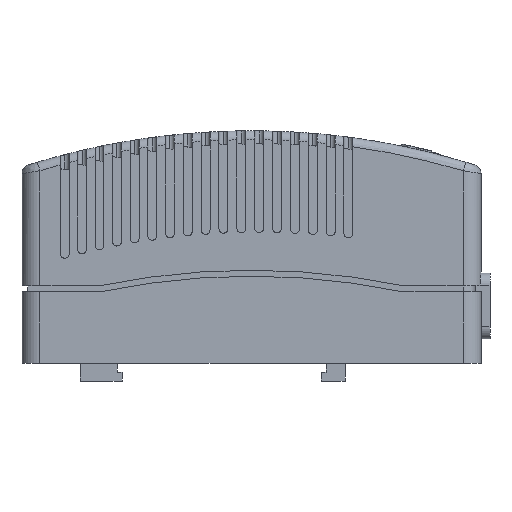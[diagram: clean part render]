
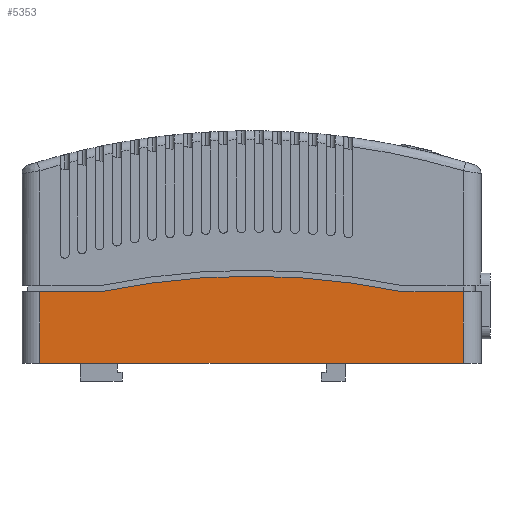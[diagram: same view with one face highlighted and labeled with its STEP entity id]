
A CAD part, left-side view. The second image highlights one B-rep face of the part: STEP entity #5353.
In plain terms, the highlighted planar face has unit normal (-1, 0, 0).
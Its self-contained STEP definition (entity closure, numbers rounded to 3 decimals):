
#246 = CARTESIAN_POINT ( 'NONE',  ( 0., -5., -110.392 ) ) ;
#247 = DIRECTION ( 'NONE',  ( 1., 0., 0. ) ) ;
#248 = DIRECTION ( 'NONE',  ( 0., 0., 1. ) ) ;
#1430 = CARTESIAN_POINT ( 'NONE',  ( 0., -30.4, 12. ) ) ;
#1454 = CARTESIAN_POINT ( 'NONE',  ( 0., -40.5, 0. ) ) ;
#1455 = CARTESIAN_POINT ( 'NONE',  ( 0., 30.5, 0. ) ) ;
#1580 = EDGE_LOOP ( 'NONE', ( #20592, #20531, #12352, #12464, #12407, #12596, #12466 ) ) ;
#1617 = VERTEX_POINT ( 'NONE', #21912 ) ;
#2074 = VERTEX_POINT ( 'NONE', #1430 ) ;
#2098 = VERTEX_POINT ( 'NONE', #1454 ) ;
#2099 = VERTEX_POINT ( 'NONE', #1455 ) ;
#2361 = VERTEX_POINT ( 'NONE', #22545 ) ;
#2465 = VERTEX_POINT ( 'NONE', #21016 ) ;
#2466 = VERTEX_POINT ( 'NONE', #21017 ) ;
#2899 = EDGE_CURVE ( 'NONE', #2099, #2098, #23634, .T. ) ;
#3154 = EDGE_CURVE ( 'NONE', #2466, #2099, #21544, .T. ) ;
#3155 = EDGE_CURVE ( 'NONE', #2361, #1617, #21371, .T. ) ;
#3156 = EDGE_CURVE ( 'NONE', #2466, #2361, #21558, .T. ) ;
#3157 = EDGE_CURVE ( 'NONE', #2074, #2465, #21822, .T. ) ;
#3159 = EDGE_CURVE ( 'NONE', #2098, #2465, #21792, .T. ) ;
#3861 = EDGE_CURVE ( 'NONE', #1617, #2074, #10626, .T. ) ;
#5353 = ADVANCED_FACE ( 'NONE', ( #11283 ), #10518, .F. ) ;
#10518 = PLANE ( 'NONE',  #13632 ) ;
#10519 = CARTESIAN_POINT ( 'NONE',  ( 0., -43.5, 39. ) ) ;
#10524 = DIRECTION ( 'NONE',  ( 1., 0., 0. ) ) ;
#10525 = DIRECTION ( 'NONE',  ( 0., 0., -1. ) ) ;
#10626 = CIRCLE ( 'NONE', #13804, 125. ) ;
#11283 = FACE_OUTER_BOUND ( 'NONE', #1580, .T. ) ;
#12352 = ORIENTED_EDGE ( 'NONE', *, *, #3157, .F. ) ;
#12407 = ORIENTED_EDGE ( 'NONE', *, *, #3155, .F. ) ;
#12464 = ORIENTED_EDGE ( 'NONE', *, *, #3861, .F. ) ;
#12466 = ORIENTED_EDGE ( 'NONE', *, *, #3154, .T. ) ;
#12596 = ORIENTED_EDGE ( 'NONE', *, *, #3156, .F. ) ;
#13632 = AXIS2_PLACEMENT_3D ( 'NONE', #10519, #10524, #10525 ) ;
#13804 = AXIS2_PLACEMENT_3D ( 'NONE', #246, #247, #248 ) ;
#13896 = AXIS2_PLACEMENT_3D ( 'NONE', #17288, #17289, #17290 ) ;
#17273 = DIRECTION ( 'NONE',  ( 0., -1., 0. ) ) ;
#17279 = CARTESIAN_POINT ( 'NONE',  ( 0., 33.5, 12. ) ) ;
#17284 = CARTESIAN_POINT ( 'NONE',  ( 0., 30.5, 39. ) ) ;
#17285 = DIRECTION ( 'NONE',  ( 0., 0., -1. ) ) ;
#17286 = CARTESIAN_POINT ( 'NONE',  ( 0., -40.5, 39. ) ) ;
#17288 = CARTESIAN_POINT ( 'NONE',  ( 0., -5., -110.392 ) ) ;
#17289 = DIRECTION ( 'NONE',  ( 1., 0., 0. ) ) ;
#17290 = DIRECTION ( 'NONE',  ( 0., 0., 1. ) ) ;
#17291 = CARTESIAN_POINT ( 'NONE',  ( 0., -30.4, 12. ) ) ;
#17293 = DIRECTION ( 'NONE',  ( 0., -1., 0. ) ) ;
#17295 = DIRECTION ( 'NONE',  ( 0., 0., 1. ) ) ;
#19784 = CARTESIAN_POINT ( 'NONE',  ( 0., -43.5, 0. ) ) ;
#19792 = DIRECTION ( 'NONE',  ( 0., -1., 0. ) ) ;
#20531 = ORIENTED_EDGE ( 'NONE', *, *, #3159, .T. ) ;
#20592 = ORIENTED_EDGE ( 'NONE', *, *, #2899, .T. ) ;
#21016 = CARTESIAN_POINT ( 'NONE',  ( 0., -40.5, 12. ) ) ;
#21017 = CARTESIAN_POINT ( 'NONE',  ( 0., 30.5, 12. ) ) ;
#21195 = VECTOR ( 'NONE', #17293, 1000. ) ;
#21371 = CIRCLE ( 'NONE', #13896, 125. ) ;
#21544 = LINE ( 'NONE', #17284, #21963 ) ;
#21558 = LINE ( 'NONE', #17279, #22004 ) ;
#21632 = VECTOR ( 'NONE', #17295, 1000. ) ;
#21792 = LINE ( 'NONE', #17286, #21632 ) ;
#21822 = LINE ( 'NONE', #17291, #21195 ) ;
#21912 = CARTESIAN_POINT ( 'NONE',  ( 0., -5., 14.608 ) ) ;
#21963 = VECTOR ( 'NONE', #17285, 1000. ) ;
#22004 = VECTOR ( 'NONE', #17273, 1000. ) ;
#22545 = CARTESIAN_POINT ( 'NONE',  ( 0., 20.4, 12. ) ) ;
#23634 = LINE ( 'NONE', #19784, #23639 ) ;
#23639 = VECTOR ( 'NONE', #19792, 1000. ) ;
